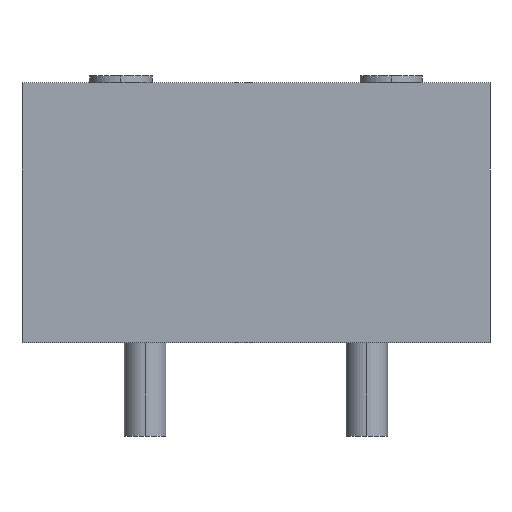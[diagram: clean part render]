
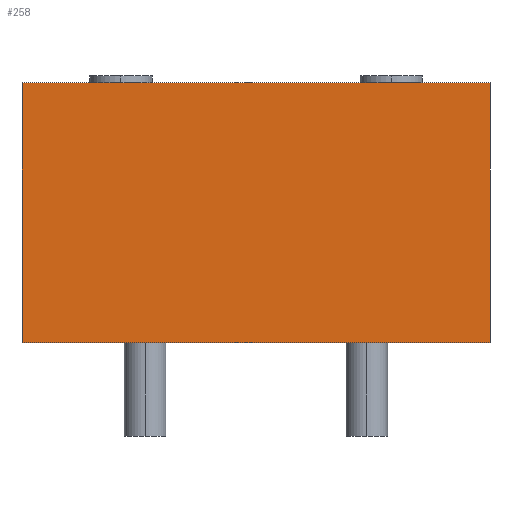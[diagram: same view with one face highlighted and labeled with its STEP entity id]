
A CAD part, left-side view. The second image highlights one B-rep face of the part: STEP entity #258.
In plain terms, the highlighted planar face has unit normal (-1, 0, 0).
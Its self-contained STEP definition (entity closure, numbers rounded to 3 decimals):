
#6 = LINE ( 'NONE', #383, #7 ) ;
#7 = VECTOR ( 'NONE', #384, 1000. ) ;
#39 = CARTESIAN_POINT ( 'NONE',  ( -6.5, 33.75, 37.5 ) ) ;
#45 = CARTESIAN_POINT ( 'NONE',  ( -6.5, 33.75, 0. ) ) ;
#49 = CARTESIAN_POINT ( 'NONE',  ( -6.5, -33.75, 0. ) ) ;
#62 = CARTESIAN_POINT ( 'NONE',  ( -6.5, -33.75, 37.5 ) ) ;
#77 = EDGE_CURVE ( 'NONE', #329, #314, #207, .T. ) ;
#78 = EDGE_CURVE ( 'NONE', #314, #319, #233, .T. ) ;
#93 = EDGE_CURVE ( 'NONE', #329, #323, #6, .T. ) ;
#104 = EDGE_CURVE ( 'NONE', #323, #319, #234, .T. ) ;
#130 = AXIS2_PLACEMENT_3D ( 'NONE', #446, #452, #453 ) ;
#175 = EDGE_LOOP ( 'NONE', ( #202, #280, #225, #218 ) ) ;
#180 = VECTOR ( 'NONE', #411, 1000. ) ;
#181 = VECTOR ( 'NONE', #346, 1000. ) ;
#202 = ORIENTED_EDGE ( 'NONE', *, *, #104, .T. ) ;
#207 = LINE ( 'NONE', #341, #232 ) ;
#218 = ORIENTED_EDGE ( 'NONE', *, *, #93, .T. ) ;
#225 = ORIENTED_EDGE ( 'NONE', *, *, #77, .F. ) ;
#232 = VECTOR ( 'NONE', #344, 1000. ) ;
#233 = LINE ( 'NONE', #343, #181 ) ;
#234 = LINE ( 'NONE', #410, #180 ) ;
#258 = ADVANCED_FACE ( 'NONE', ( #496 ), #443, .F. ) ;
#280 = ORIENTED_EDGE ( 'NONE', *, *, #78, .F. ) ;
#314 = VERTEX_POINT ( 'NONE', #62 ) ;
#319 = VERTEX_POINT ( 'NONE', #49 ) ;
#323 = VERTEX_POINT ( 'NONE', #45 ) ;
#329 = VERTEX_POINT ( 'NONE', #39 ) ;
#341 = CARTESIAN_POINT ( 'NONE',  ( -6.5, -33.75, 37.5 ) ) ;
#343 = CARTESIAN_POINT ( 'NONE',  ( -6.5, -33.75, 37.5 ) ) ;
#344 = DIRECTION ( 'NONE',  ( 0., -1., 0. ) ) ;
#346 = DIRECTION ( 'NONE',  ( 0., 0., -1. ) ) ;
#383 = CARTESIAN_POINT ( 'NONE',  ( -6.5, 33.75, 37.5 ) ) ;
#384 = DIRECTION ( 'NONE',  ( 0., 0., -1. ) ) ;
#410 = CARTESIAN_POINT ( 'NONE',  ( -6.5, -33.75, 0. ) ) ;
#411 = DIRECTION ( 'NONE',  ( 0., -1., 0. ) ) ;
#443 = PLANE ( 'NONE',  #130 ) ;
#446 = CARTESIAN_POINT ( 'NONE',  ( -6.5, -33.75, 37.5 ) ) ;
#452 = DIRECTION ( 'NONE',  ( 1., 0., 0. ) ) ;
#453 = DIRECTION ( 'NONE',  ( 0., 0., -1. ) ) ;
#496 = FACE_OUTER_BOUND ( 'NONE', #175, .T. ) ;
